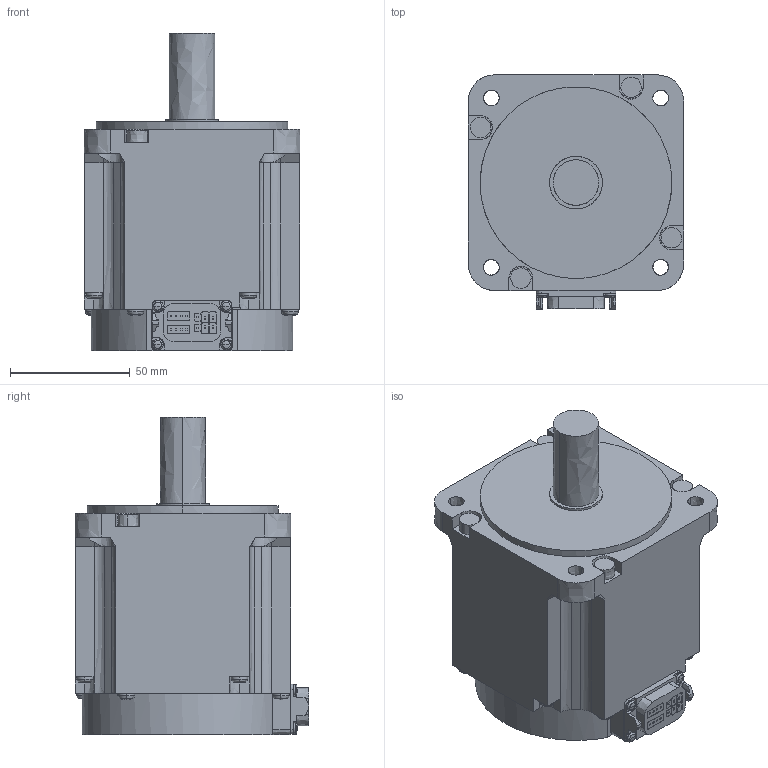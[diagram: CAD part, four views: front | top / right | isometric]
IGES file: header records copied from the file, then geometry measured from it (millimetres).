
Start section:  PTC IGES file: hk-kt103uw_.igs
Global section: file name: hk-kt103uw_.igs; native system: Creo Parametric by PTC Inc.; preprocessor: 2016380; author: XE90682; organization: Unknown; date: 20190118.115659; units: millimetre
Bounding box: 90 x 97.65 x 132.5 mm (x, y, z)
Volume: 664116.8 mm3; surface area: 52071.7 mm2
Topology: 1 solids, 1 shells, 397 faces, 1028 edges, 652 vertices
Faces by surface type: bspline 397
